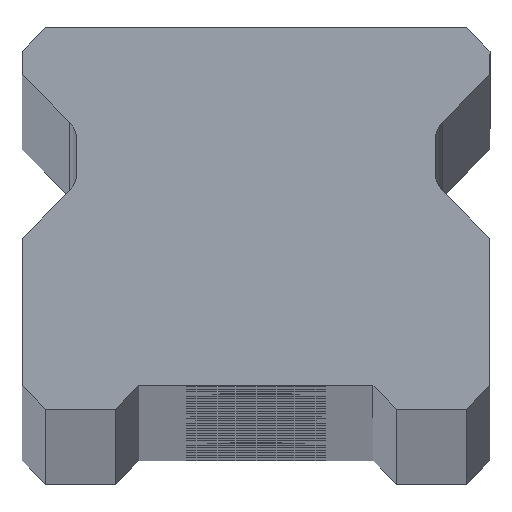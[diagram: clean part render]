
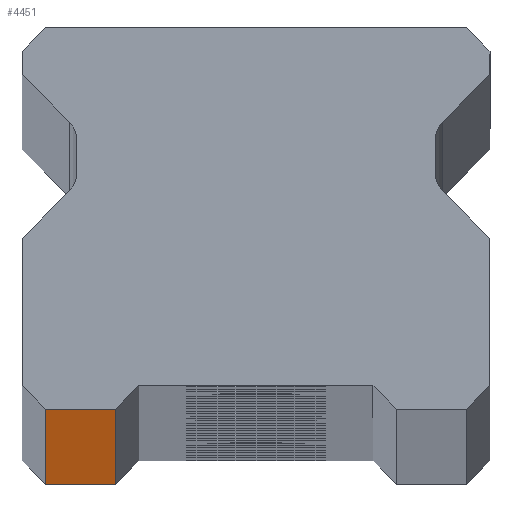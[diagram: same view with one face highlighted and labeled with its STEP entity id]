
A CAD part, top view. The second image highlights one B-rep face of the part: STEP entity #4451.
In plain terms, the highlighted planar face has unit normal (0, -1, 0).
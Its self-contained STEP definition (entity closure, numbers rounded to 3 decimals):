
#45 = ORIENTED_EDGE ( 'NONE', *, *, #828, .T. ) ;
#132 = VERTEX_POINT ( 'NONE', #2325 ) ;
#358 = VECTOR ( 'NONE', #751, 1000. ) ;
#751 = DIRECTION ( 'NONE',  ( 1., 0., 0. ) ) ;
#828 = EDGE_CURVE ( 'NONE', #3696, #4623, #1356, .T. ) ;
#872 = VECTOR ( 'NONE', #886, 1000. ) ;
#886 = DIRECTION ( 'NONE',  ( 0., 0., -1. ) ) ;
#1115 = EDGE_CURVE ( 'NONE', #3096, #132, #4838, .T. ) ;
#1356 = LINE ( 'NONE', #3191, #4973 ) ;
#2074 = LINE ( 'NONE', #3362, #358 ) ;
#2228 = LINE ( 'NONE', #4160, #4699 ) ;
#2325 = CARTESIAN_POINT ( 'NONE',  ( -9., 0., -920. ) ) ;
#2739 = ORIENTED_EDGE ( 'NONE', *, *, #4707, .F. ) ;
#2824 = EDGE_CURVE ( 'NONE', #132, #3696, #2228, .T. ) ;
#2934 = CARTESIAN_POINT ( 'NONE',  ( -6., 0., -920. ) ) ;
#3096 = VERTEX_POINT ( 'NONE', #3099 ) ;
#3099 = CARTESIAN_POINT ( 'NONE',  ( -9., 0., 920. ) ) ;
#3191 = CARTESIAN_POINT ( 'NONE',  ( -6., 0., -920. ) ) ;
#3362 = CARTESIAN_POINT ( 'NONE',  ( 10., 0., 920. ) ) ;
#3368 = DIRECTION ( 'NONE',  ( -1., 0., 0. ) ) ;
#3620 = DIRECTION ( 'NONE',  ( 0., 0., 1. ) ) ;
#3666 = ORIENTED_EDGE ( 'NONE', *, *, #1115, .T. ) ;
#3696 = VERTEX_POINT ( 'NONE', #2934 ) ;
#3746 = CARTESIAN_POINT ( 'NONE',  ( 10., 0., 920. ) ) ;
#4160 = CARTESIAN_POINT ( 'NONE',  ( 10., 0., -920. ) ) ;
#4275 = PLANE ( 'NONE',  #5547 ) ;
#4451 = ADVANCED_FACE ( 'NONE', ( #4934 ), #4275, .F. ) ;
#4623 = VERTEX_POINT ( 'NONE', #5618 ) ;
#4699 = VECTOR ( 'NONE', #5462, 1000. ) ;
#4707 = EDGE_CURVE ( 'NONE', #3096, #4623, #2074, .T. ) ;
#4838 = LINE ( 'NONE', #5256, #872 ) ;
#4934 = FACE_OUTER_BOUND ( 'NONE', #5295, .T. ) ;
#4973 = VECTOR ( 'NONE', #3620, 1000. ) ;
#5256 = CARTESIAN_POINT ( 'NONE',  ( -9., 0., 920. ) ) ;
#5295 = EDGE_LOOP ( 'NONE', ( #5316, #45, #2739, #3666 ) ) ;
#5316 = ORIENTED_EDGE ( 'NONE', *, *, #2824, .T. ) ;
#5462 = DIRECTION ( 'NONE',  ( 1., 0., 0. ) ) ;
#5547 = AXIS2_PLACEMENT_3D ( 'NONE', #3746, #5590, #3368 ) ;
#5590 = DIRECTION ( 'NONE',  ( 0., 1., 0. ) ) ;
#5618 = CARTESIAN_POINT ( 'NONE',  ( -6., 0., 920. ) ) ;
